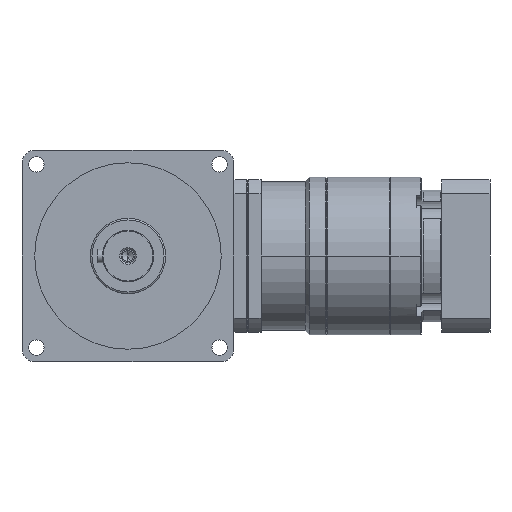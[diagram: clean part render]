
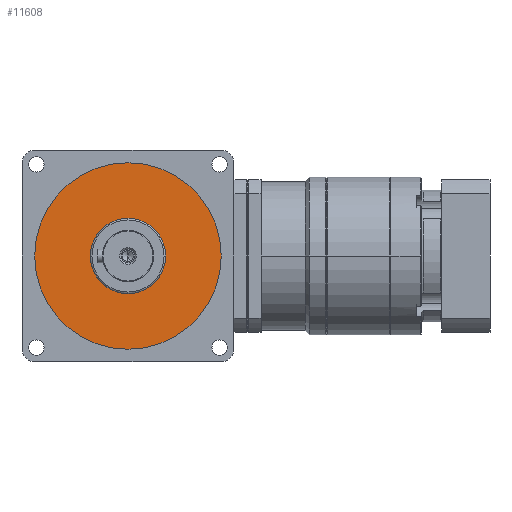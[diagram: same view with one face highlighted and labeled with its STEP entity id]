
A CAD part, left-side view. The second image highlights one B-rep face of the part: STEP entity #11608.
In plain terms, the highlighted planar face has unit normal (-1, 0, 0).
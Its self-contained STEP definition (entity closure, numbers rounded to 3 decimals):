
#313 = VERTEX_POINT ( 'NONE', #11286 ) ;
#467 = DIRECTION ( 'NONE',  ( 0., 0., 1. ) ) ;
#1668 = PLANE ( 'NONE',  #13370 ) ;
#1844 = CIRCLE ( 'NONE', #6467, 22.25 ) ;
#2429 = DIRECTION ( 'NONE',  ( 0., 0., 1. ) ) ;
#2494 = AXIS2_PLACEMENT_3D ( 'NONE', #13440, #12233, #9591 ) ;
#3026 = CARTESIAN_POINT ( 'NONE',  ( -41.5, 0., 0. ) ) ;
#3194 = ORIENTED_EDGE ( 'NONE', *, *, #14293, .F. ) ;
#3211 = VERTEX_POINT ( 'NONE', #6982 ) ;
#3627 = DIRECTION ( 'NONE',  ( -1., 0., 0. ) ) ;
#3714 = EDGE_LOOP ( 'NONE', ( #3194, #13865 ) ) ;
#4358 = AXIS2_PLACEMENT_3D ( 'NONE', #7590, #6239, #11114 ) ;
#4375 = CARTESIAN_POINT ( 'NONE',  ( -41.5, 0., 55. ) ) ;
#4520 = CIRCLE ( 'NONE', #2494, 22.25 ) ;
#5284 = AXIS2_PLACEMENT_3D ( 'NONE', #7321, #15570, #8279 ) ;
#5335 = ORIENTED_EDGE ( 'NONE', *, *, #10393, .T. ) ;
#5769 = EDGE_CURVE ( 'NONE', #313, #8725, #14603, .T. ) ;
#6239 = DIRECTION ( 'NONE',  ( -1., 0., 0. ) ) ;
#6467 = AXIS2_PLACEMENT_3D ( 'NONE', #10595, #3627, #2429 ) ;
#6566 = FACE_BOUND ( 'NONE', #3714, .T. ) ;
#6645 = FACE_OUTER_BOUND ( 'NONE', #12580, .T. ) ;
#6982 = CARTESIAN_POINT ( 'NONE',  ( -41.5, 0., 22.25 ) ) ;
#7321 = CARTESIAN_POINT ( 'NONE',  ( -41.5, 0., 0. ) ) ;
#7590 = CARTESIAN_POINT ( 'NONE',  ( -41.5, 0., 0. ) ) ;
#8279 = DIRECTION ( 'NONE',  ( 0., 0., 1. ) ) ;
#8725 = VERTEX_POINT ( 'NONE', #4375 ) ;
#9132 = ORIENTED_EDGE ( 'NONE', *, *, #5769, .T. ) ;
#9591 = DIRECTION ( 'NONE',  ( 0., 0., 1. ) ) ;
#10379 = CIRCLE ( 'NONE', #5284, 55. ) ;
#10393 = EDGE_CURVE ( 'NONE', #8725, #313, #10379, .T. ) ;
#10595 = CARTESIAN_POINT ( 'NONE',  ( -41.5, 0., 0. ) ) ;
#10759 = EDGE_CURVE ( 'NONE', #3211, #11313, #1844, .T. ) ;
#11114 = DIRECTION ( 'NONE',  ( 0., 0., 1. ) ) ;
#11286 = CARTESIAN_POINT ( 'NONE',  ( -41.5, 0., -55. ) ) ;
#11313 = VERTEX_POINT ( 'NONE', #12241 ) ;
#11433 = DIRECTION ( 'NONE',  ( -1., 0., 0. ) ) ;
#11608 = ADVANCED_FACE ( 'NONE', ( #6566, #6645 ), #1668, .T. ) ;
#12233 = DIRECTION ( 'NONE',  ( -1., 0., 0. ) ) ;
#12241 = CARTESIAN_POINT ( 'NONE',  ( -41.5, 0., -22.25 ) ) ;
#12580 = EDGE_LOOP ( 'NONE', ( #5335, #9132 ) ) ;
#13370 = AXIS2_PLACEMENT_3D ( 'NONE', #3026, #11433, #467 ) ;
#13440 = CARTESIAN_POINT ( 'NONE',  ( -41.5, 0., 0. ) ) ;
#13865 = ORIENTED_EDGE ( 'NONE', *, *, #10759, .F. ) ;
#14293 = EDGE_CURVE ( 'NONE', #11313, #3211, #4520, .T. ) ;
#14603 = CIRCLE ( 'NONE', #4358, 55. ) ;
#15570 = DIRECTION ( 'NONE',  ( -1., 0., 0. ) ) ;
